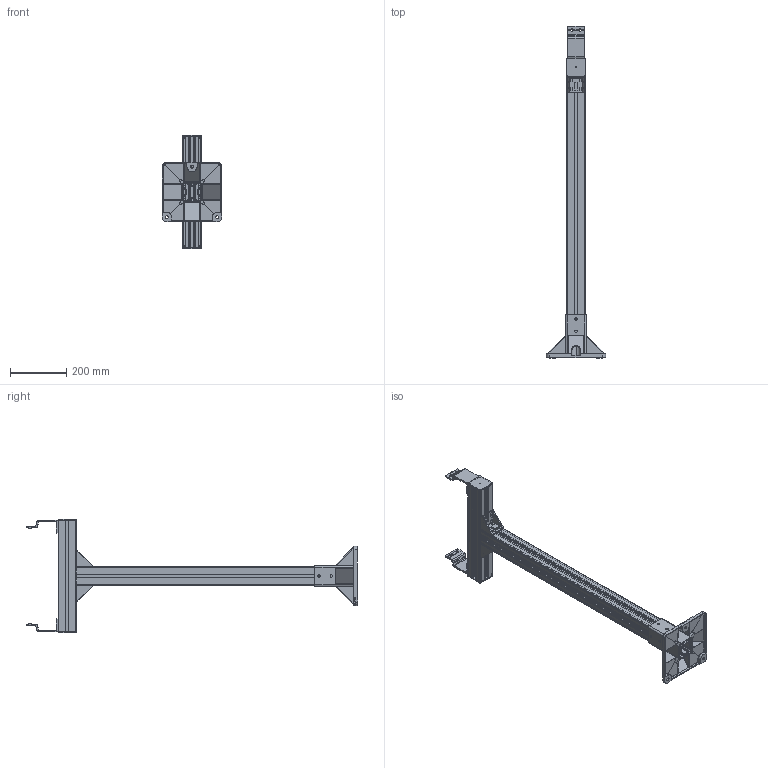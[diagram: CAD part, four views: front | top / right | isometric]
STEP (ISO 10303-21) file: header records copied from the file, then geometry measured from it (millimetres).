
FILE_DESCRIPTION (( 'STEP AP214' ), '1' );
FILE_NAME ('F2-1200-PC64.STEP', '2011-04-13T11:28:53', ( '.' ), ( '' ), 'SwSTEP 2.0', 'SolidWorks 2010', '' );
FILE_SCHEMA (( 'AUTOMOTIVE_DESIGN' ));
Length unit declared in the file: millimetre
Products named in the file (7): EC210-64-PC64; TC64-PC64_Tube vertical; FBFA 58B-PC64; FAHBS-60-PC64_Default; FBEC-64-PC64_Default; F2-1200-PC64; TC64-PC64_F2-1200-PC64
Assembly tree (9 placements, depth 2):
  F2-1200-PC64
    TC64-PC64_F2-1200-PC64
    TC64-PC64_Tube vertical
    FBFA 58B-PC64  x2
    FBEC-64-PC64_Default  x2
    FAHBS-60-PC64_Default  x2
    EC210-64-PC64
Bounding box: 210 x 1178 x 404 mm (x, y, z)
Volume: 1704312 mm3; surface area: 1381432.8 mm2
Topology: 9 solids, 9 shells, 1659 faces, 4644 edges, 3050 vertices
Faces by surface type: plane 896, cylinder 624, bspline 123, sphere 8, cone 4, torus 4
Entity records: 42027 total; most frequent: CARTESIAN_POINT 10635, ORIENTED_EDGE 6404, DIRECTION 5967, EDGE_CURVE 3202, VERTEX_POINT 2096, LINE 2091, VECTOR 2091, AXIS2_PLACEMENT_3D 1938
